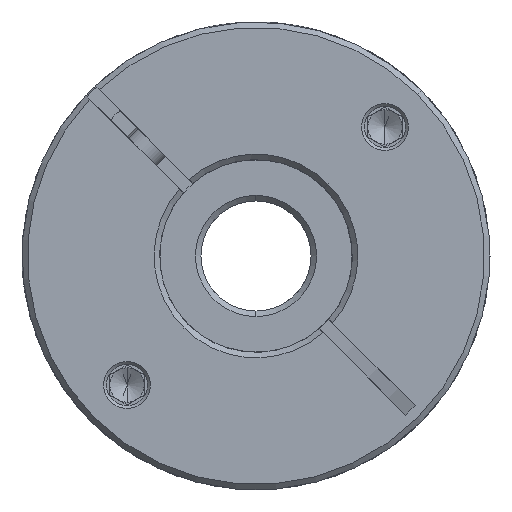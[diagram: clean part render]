
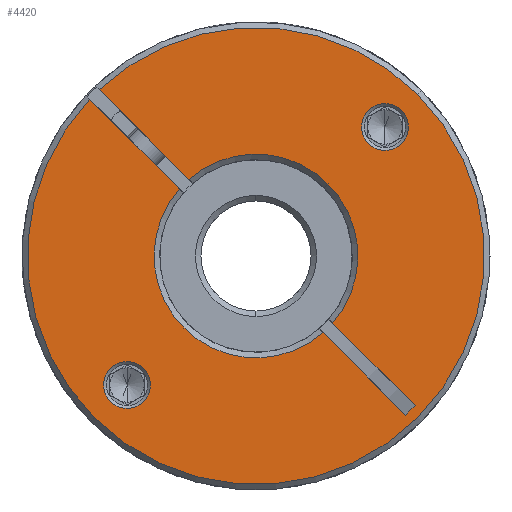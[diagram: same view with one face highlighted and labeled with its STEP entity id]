
A CAD part, front view. The second image highlights one B-rep face of the part: STEP entity #4420.
In plain terms, the highlighted planar face has unit normal (0, -1, 0).
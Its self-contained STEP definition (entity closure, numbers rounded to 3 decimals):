
#203 = CARTESIAN_POINT ( 'NONE',  ( 6.999, -67.045, 56.852 ) ) ;
#309 = DIRECTION ( 'NONE',  ( 0., 1., 0. ) ) ;
#810 = DIRECTION ( 'NONE',  ( 0., 1., 0. ) ) ;
#818 = EDGE_CURVE ( 'NONE', #19435, #5903, #9507, .T. ) ;
#1290 = CARTESIAN_POINT ( 'NONE',  ( -2.735, -67.045, 68. ) ) ;
#1582 = DIRECTION ( 'NONE',  ( 0.707, 0., 0.707 ) ) ;
#1826 = DIRECTION ( 'NONE',  ( 0.707, 0., 0.707 ) ) ;
#1853 = ORIENTED_EDGE ( 'NONE', *, *, #11794, .T. ) ;
#1882 = ORIENTED_EDGE ( 'NONE', *, *, #818, .T. ) ;
#1959 = DIRECTION ( 'NONE',  ( 0.707, 0., 0.707 ) ) ;
#2318 = EDGE_CURVE ( 'NONE', #4560, #19704, #11328, .T. ) ;
#2413 = EDGE_CURVE ( 'NONE', #16208, #4680, #13963, .T. ) ;
#2570 = DIRECTION ( 'NONE',  ( 0.707, 0., 0.707 ) ) ;
#2974 = DIRECTION ( 'NONE',  ( 0., 1., 0. ) ) ;
#3041 = CARTESIAN_POINT ( 'NONE',  ( 18.407, -67.045, 89.142 ) ) ;
#3152 = AXIS2_PLACEMENT_3D ( 'NONE', #17382, #810, #7248 ) ;
#3181 = DIRECTION ( 'NONE',  ( 0., -1., 0. ) ) ;
#3319 = PLANE ( 'NONE',  #7569 ) ;
#3380 = CARTESIAN_POINT ( 'NONE',  ( 7.73, -67.045, 78.465 ) ) ;
#3802 = EDGE_CURVE ( 'NONE', #5903, #19704, #11526, .T. ) ;
#3849 = ORIENTED_EDGE ( 'NONE', *, *, #11732, .T. ) ;
#3920 = ORIENTED_EDGE ( 'NONE', *, *, #9508, .T. ) ;
#4027 = VERTEX_POINT ( 'NONE', #10545 ) ;
#4038 = VECTOR ( 'NONE', #6778, 1000. ) ;
#4063 = CIRCLE ( 'NONE', #4925, 14.8 ) ;
#4158 = DIRECTION ( 'NONE',  ( 0.707, 0., -0.707 ) ) ;
#4319 = ORIENTED_EDGE ( 'NONE', *, *, #5934, .T. ) ;
#4420 = ADVANCED_FACE ( 'NONE', ( #18057, #13879, #9439 ), #3319, .T. ) ;
#4470 = CARTESIAN_POINT ( 'NONE',  ( -26.908, -67.045, 90.758 ) ) ;
#4560 = VERTEX_POINT ( 'NONE', #203 ) ;
#4680 = VERTEX_POINT ( 'NONE', #12332 ) ;
#4746 = DIRECTION ( 'NONE',  ( 0.707, 0., -0.707 ) ) ;
#4758 = VERTEX_POINT ( 'NONE', #5844 ) ;
#4901 = CARTESIAN_POINT ( 'NONE',  ( -2.735, -67.045, 68. ) ) ;
#4925 = AXIS2_PLACEMENT_3D ( 'NONE', #19065, #16014, #17620 ) ;
#5070 = VECTOR ( 'NONE', #4158, 1000. ) ;
#5122 = AXIS2_PLACEMENT_3D ( 'NONE', #10026, #3181, #13287 ) ;
#5415 = VERTEX_POINT ( 'NONE', #3380 ) ;
#5435 = DIRECTION ( 'NONE',  ( 0., 1., 0. ) ) ;
#5528 = VERTEX_POINT ( 'NONE', #8544 ) ;
#5677 = ORIENTED_EDGE ( 'NONE', *, *, #2413, .T. ) ;
#5779 = ORIENTED_EDGE ( 'NONE', *, *, #8192, .T. ) ;
#5844 = CARTESIAN_POINT ( 'NONE',  ( 20.741, -67.045, 91.476 ) ) ;
#5903 = VERTEX_POINT ( 'NONE', #6959 ) ;
#5934 = EDGE_CURVE ( 'NONE', #17628, #4758, #15364, .T. ) ;
#5979 = CARTESIAN_POINT ( 'NONE',  ( -13.883, -67.045, 77.734 ) ) ;
#6110 = CARTESIAN_POINT ( 'NONE',  ( 16.003, -67.045, 86.738 ) ) ;
#6314 = ORIENTED_EDGE ( 'NONE', *, *, #2318, .F. ) ;
#6441 = ORIENTED_EDGE ( 'NONE', *, *, #16936, .T. ) ;
#6451 = CARTESIAN_POINT ( 'NONE',  ( -2.735, -67.045, 68. ) ) ;
#6702 = AXIS2_PLACEMENT_3D ( 'NONE', #6110, #2974, #9533 ) ;
#6778 = DIRECTION ( 'NONE',  ( 0.707, 0., -0.707 ) ) ;
#6818 = ORIENTED_EDGE ( 'NONE', *, *, #3802, .T. ) ;
#6959 = CARTESIAN_POINT ( 'NONE',  ( 20.402, -67.045, 46.277 ) ) ;
#7222 = CIRCLE ( 'NONE', #11881, 3.4 ) ;
#7248 = DIRECTION ( 'NONE',  ( 0.707, 0., 0.707 ) ) ;
#7552 = CIRCLE ( 'NONE', #10158, 14.8 ) ;
#7569 = AXIS2_PLACEMENT_3D ( 'NONE', #6451, #19834, #8401 ) ;
#7571 = CIRCLE ( 'NONE', #12535, 33.2 ) ;
#7852 = ORIENTED_EDGE ( 'NONE', *, *, #8905, .T. ) ;
#7888 = DIRECTION ( 'NONE',  ( 0., 1., 0. ) ) ;
#8192 = EDGE_CURVE ( 'NONE', #5415, #19435, #4063, .T. ) ;
#8401 = DIRECTION ( 'NONE',  ( 0.707, 0., 0.707 ) ) ;
#8544 = CARTESIAN_POINT ( 'NONE',  ( -19.069, -67.045, 51.666 ) ) ;
#8648 = EDGE_LOOP ( 'NONE', ( #1853, #13581 ) ) ;
#8770 = VERTEX_POINT ( 'NONE', #4470 ) ;
#8905 = EDGE_CURVE ( 'NONE', #4758, #12873, #14964, .T. ) ;
#9342 = AXIS2_PLACEMENT_3D ( 'NONE', #20294, #18768, #1959 ) ;
#9439 = FACE_OUTER_BOUND ( 'NONE', #12028, .T. ) ;
#9507 = LINE ( 'NONE', #14288, #4038 ) ;
#9508 = EDGE_CURVE ( 'NONE', #4680, #16208, #20662, .T. ) ;
#9533 = DIRECTION ( 'NONE',  ( 0.707, 0., 0.707 ) ) ;
#10026 = CARTESIAN_POINT ( 'NONE',  ( -2.735, -67.045, 68. ) ) ;
#10076 = CARTESIAN_POINT ( 'NONE',  ( -26.211, -67.045, 44.524 ) ) ;
#10132 = EDGE_CURVE ( 'NONE', #4560, #18031, #12845, .T. ) ;
#10158 = AXIS2_PLACEMENT_3D ( 'NONE', #10466, #5435, #17248 ) ;
#10401 = AXIS2_PLACEMENT_3D ( 'NONE', #4901, #13344, #16570 ) ;
#10466 = CARTESIAN_POINT ( 'NONE',  ( -2.735, -67.045, 68. ) ) ;
#10545 = CARTESIAN_POINT ( 'NONE',  ( -12.469, -67.045, 79.148 ) ) ;
#11204 = CARTESIAN_POINT ( 'NONE',  ( -2.028, -67.045, 68.707 ) ) ;
#11216 = EDGE_CURVE ( 'NONE', #8770, #17628, #7571, .T. ) ;
#11328 = LINE ( 'NONE', #15958, #5070 ) ;
#11526 = LINE ( 'NONE', #14782, #16235 ) ;
#11699 = DIRECTION ( 'NONE',  ( 0.707, 0., -0.707 ) ) ;
#11732 = EDGE_CURVE ( 'NONE', #4027, #5415, #7552, .T. ) ;
#11778 = CARTESIAN_POINT ( 'NONE',  ( -3.442, -67.045, 67.293 ) ) ;
#11794 = EDGE_CURVE ( 'NONE', #5528, #16526, #19265, .T. ) ;
#11881 = AXIS2_PLACEMENT_3D ( 'NONE', #18422, #309, #1826 ) ;
#12028 = EDGE_LOOP ( 'NONE', ( #21418, #12726, #4319, #7852, #6441, #3849, #5779, #1882, #6818, #6314, #20228 ) ) ;
#12332 = CARTESIAN_POINT ( 'NONE',  ( 13.599, -67.045, 84.334 ) ) ;
#12535 = AXIS2_PLACEMENT_3D ( 'NONE', #19806, #13258, #1582 ) ;
#12614 = CARTESIAN_POINT ( 'NONE',  ( 18.988, -67.045, 44.862 ) ) ;
#12726 = ORIENTED_EDGE ( 'NONE', *, *, #11216, .T. ) ;
#12845 = CIRCLE ( 'NONE', #17549, 14.8 ) ;
#12873 = VERTEX_POINT ( 'NONE', #19352 ) ;
#13258 = DIRECTION ( 'NONE',  ( 0., -1., 0. ) ) ;
#13287 = DIRECTION ( 'NONE',  ( 0.707, 0., 0.707 ) ) ;
#13344 = DIRECTION ( 'NONE',  ( 0., -1., 0. ) ) ;
#13581 = ORIENTED_EDGE ( 'NONE', *, *, #19973, .T. ) ;
#13879 = FACE_BOUND ( 'NONE', #8648, .T. ) ;
#13947 = VECTOR ( 'NONE', #11699, 1000. ) ;
#13963 = CIRCLE ( 'NONE', #6702, 3.4 ) ;
#14288 = CARTESIAN_POINT ( 'NONE',  ( -2.028, -67.045, 68.707 ) ) ;
#14374 = EDGE_LOOP ( 'NONE', ( #5677, #3920 ) ) ;
#14782 = CARTESIAN_POINT ( 'NONE',  ( 18.988, -67.045, 44.862 ) ) ;
#14873 = LINE ( 'NONE', #11204, #19538 ) ;
#14964 = CIRCLE ( 'NONE', #10401, 33.2 ) ;
#15306 = CARTESIAN_POINT ( 'NONE',  ( 8.413, -67.045, 58.266 ) ) ;
#15364 = CIRCLE ( 'NONE', #5122, 33.2 ) ;
#15958 = CARTESIAN_POINT ( 'NONE',  ( -3.442, -67.045, 67.293 ) ) ;
#16014 = DIRECTION ( 'NONE',  ( 0., 1., 0. ) ) ;
#16208 = VERTEX_POINT ( 'NONE', #3041 ) ;
#16235 = VECTOR ( 'NONE', #16314, 1000. ) ;
#16314 = DIRECTION ( 'NONE',  ( -0.707, 0., -0.707 ) ) ;
#16526 = VERTEX_POINT ( 'NONE', #20845 ) ;
#16570 = DIRECTION ( 'NONE',  ( 0.707, 0., 0.707 ) ) ;
#16936 = EDGE_CURVE ( 'NONE', #12873, #4027, #14873, .T. ) ;
#17248 = DIRECTION ( 'NONE',  ( 0.707, 0., 0.707 ) ) ;
#17382 = CARTESIAN_POINT ( 'NONE',  ( 16.003, -67.045, 86.738 ) ) ;
#17549 = AXIS2_PLACEMENT_3D ( 'NONE', #1290, #7888, #2570 ) ;
#17620 = DIRECTION ( 'NONE',  ( 0.707, 0., 0.707 ) ) ;
#17628 = VERTEX_POINT ( 'NONE', #10076 ) ;
#18031 = VERTEX_POINT ( 'NONE', #5979 ) ;
#18057 = FACE_BOUND ( 'NONE', #14374, .T. ) ;
#18377 = LINE ( 'NONE', #11778, #13947 ) ;
#18422 = CARTESIAN_POINT ( 'NONE',  ( -21.473, -67.045, 49.262 ) ) ;
#18768 = DIRECTION ( 'NONE',  ( 0., 1., 0. ) ) ;
#19065 = CARTESIAN_POINT ( 'NONE',  ( -2.735, -67.045, 68. ) ) ;
#19265 = CIRCLE ( 'NONE', #9342, 3.4 ) ;
#19352 = CARTESIAN_POINT ( 'NONE',  ( -25.493, -67.045, 92.172 ) ) ;
#19435 = VERTEX_POINT ( 'NONE', #15306 ) ;
#19538 = VECTOR ( 'NONE', #4746, 1000. ) ;
#19704 = VERTEX_POINT ( 'NONE', #12614 ) ;
#19806 = CARTESIAN_POINT ( 'NONE',  ( -2.735, -67.045, 68. ) ) ;
#19834 = DIRECTION ( 'NONE',  ( 0., -1., 0. ) ) ;
#19973 = EDGE_CURVE ( 'NONE', #16526, #5528, #7222, .T. ) ;
#20228 = ORIENTED_EDGE ( 'NONE', *, *, #10132, .T. ) ;
#20294 = CARTESIAN_POINT ( 'NONE',  ( -21.473, -67.045, 49.262 ) ) ;
#20662 = CIRCLE ( 'NONE', #3152, 3.4 ) ;
#20845 = CARTESIAN_POINT ( 'NONE',  ( -23.878, -67.045, 46.858 ) ) ;
#21311 = EDGE_CURVE ( 'NONE', #8770, #18031, #18377, .T. ) ;
#21418 = ORIENTED_EDGE ( 'NONE', *, *, #21311, .F. ) ;
